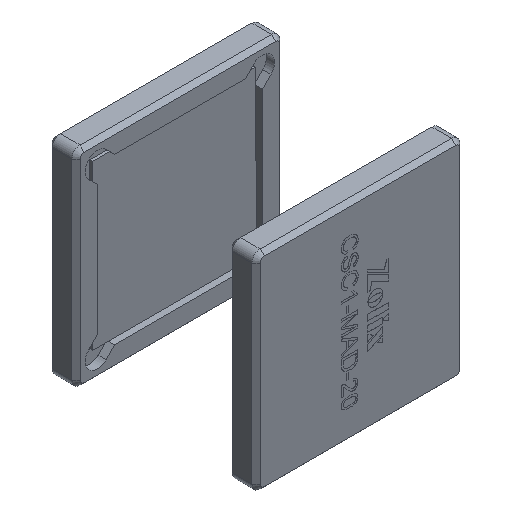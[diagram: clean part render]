
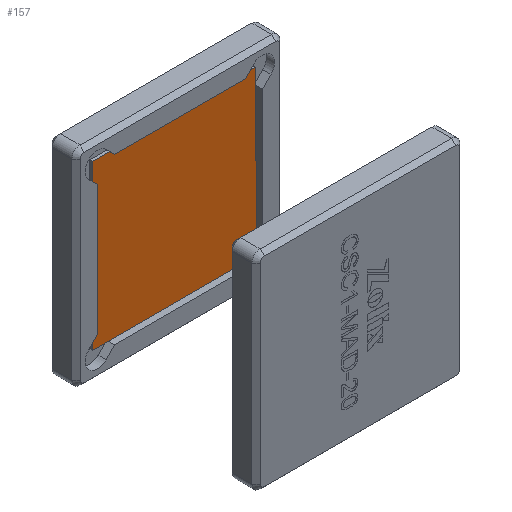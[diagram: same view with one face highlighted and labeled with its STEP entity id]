
A CAD part, isometric view. The second image highlights one B-rep face of the part: STEP entity #157.
In plain terms, the highlighted planar face has unit normal (0, -1, 0).
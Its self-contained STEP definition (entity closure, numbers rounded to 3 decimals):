
#157 = ADVANCED_FACE ( 'NONE', ( #19792 ), #13719, .T. ) ;
#725 = LINE ( 'NONE', #19152, #18317 ) ;
#1719 = ORIENTED_EDGE ( 'NONE', *, *, #12683, .T. ) ;
#1868 = DIRECTION ( 'NONE',  ( -1., 0., 0. ) ) ;
#1979 = CARTESIAN_POINT ( 'NONE',  ( -10., 10., 10. ) ) ;
#2604 = VERTEX_POINT ( 'NONE', #15824 ) ;
#2933 = VERTEX_POINT ( 'NONE', #5076 ) ;
#3178 = LINE ( 'NONE', #15695, #15120 ) ;
#3847 = DIRECTION ( 'NONE',  ( -1., 0., 0. ) ) ;
#5076 = CARTESIAN_POINT ( 'NONE',  ( 10., 10., -10. ) ) ;
#6090 = CARTESIAN_POINT ( 'NONE',  ( 0., 10., 0. ) ) ;
#6674 = DIRECTION ( 'NONE',  ( 1., 0., 0. ) ) ;
#8012 = LINE ( 'NONE', #1979, #13891 ) ;
#8107 = DIRECTION ( 'NONE',  ( 0., 0., -1. ) ) ;
#8630 = EDGE_LOOP ( 'NONE', ( #1719, #12773, #15744, #18877 ) ) ;
#9149 = EDGE_CURVE ( 'NONE', #13363, #12100, #8012, .T. ) ;
#9883 = LINE ( 'NONE', #19075, #19629 ) ;
#11631 = CARTESIAN_POINT ( 'NONE',  ( -10., 10., -10. ) ) ;
#12100 = VERTEX_POINT ( 'NONE', #11631 ) ;
#12683 = EDGE_CURVE ( 'NONE', #2933, #2604, #3178, .T. ) ;
#12773 = ORIENTED_EDGE ( 'NONE', *, *, #13323, .T. ) ;
#13323 = EDGE_CURVE ( 'NONE', #2604, #13363, #725, .T. ) ;
#13328 = AXIS2_PLACEMENT_3D ( 'NONE', #6090, #18400, #1868 ) ;
#13363 = VERTEX_POINT ( 'NONE', #14677 ) ;
#13719 = PLANE ( 'NONE',  #13328 ) ;
#13891 = VECTOR ( 'NONE', #8107, 1000. ) ;
#14677 = CARTESIAN_POINT ( 'NONE',  ( -10., 10., 10. ) ) ;
#15120 = VECTOR ( 'NONE', #18592, 1000. ) ;
#15695 = CARTESIAN_POINT ( 'NONE',  ( 10., 10., 10. ) ) ;
#15744 = ORIENTED_EDGE ( 'NONE', *, *, #9149, .T. ) ;
#15824 = CARTESIAN_POINT ( 'NONE',  ( 10., 10., 10. ) ) ;
#16431 = EDGE_CURVE ( 'NONE', #12100, #2933, #9883, .T. ) ;
#18317 = VECTOR ( 'NONE', #3847, 1000. ) ;
#18400 = DIRECTION ( 'NONE',  ( 0., -1., 0. ) ) ;
#18592 = DIRECTION ( 'NONE',  ( 0., 0., 1. ) ) ;
#18877 = ORIENTED_EDGE ( 'NONE', *, *, #16431, .T. ) ;
#19075 = CARTESIAN_POINT ( 'NONE',  ( -10., 10., -10. ) ) ;
#19152 = CARTESIAN_POINT ( 'NONE',  ( -10., 10., 10. ) ) ;
#19629 = VECTOR ( 'NONE', #6674, 1000. ) ;
#19792 = FACE_OUTER_BOUND ( 'NONE', #8630, .T. ) ;
